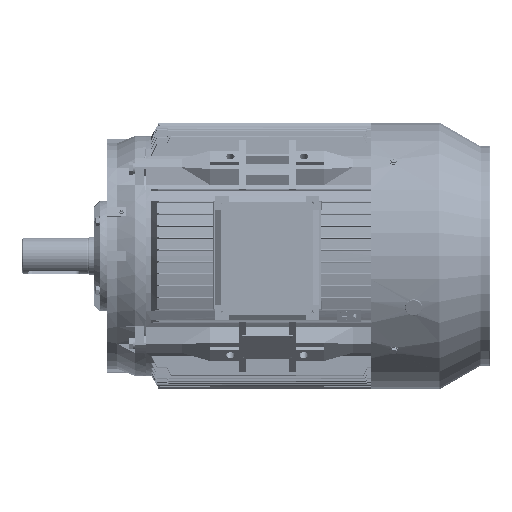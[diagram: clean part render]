
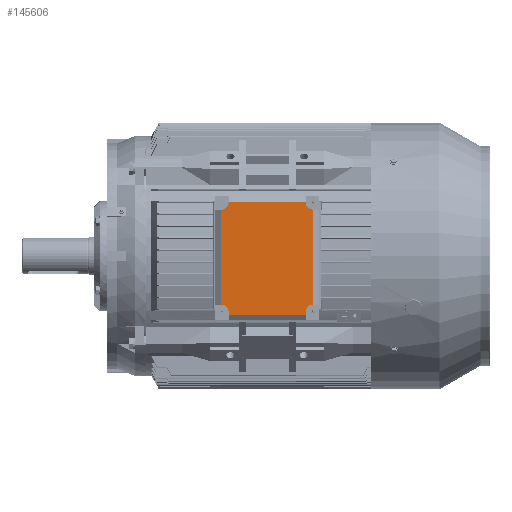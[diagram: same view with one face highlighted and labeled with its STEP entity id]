
A CAD part, top view. The second image highlights one B-rep face of the part: STEP entity #145606.
In plain terms, the highlighted planar face has unit normal (0, 0, 1).
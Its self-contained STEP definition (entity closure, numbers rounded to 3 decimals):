
#145606 = ADVANCED_FACE ( 'NONE', ( #189729 ), #189711, .T. ) ;
#145609 = EDGE_LOOP ( 'NONE', ( #145622, #145659, #145677, #145697, #145716, #145752, #145768, #145796, #145811, #145834, #145863, #145884, #145907, #145923, #145940, #145979 ) ) ;
#145622 = ORIENTED_EDGE ( 'NONE', *, *, #145626, .F. ) ;
#145626 = EDGE_CURVE ( 'NONE', #145641, #145653, #189882, .T. ) ;
#145641 = VERTEX_POINT ( 'NONE', #189827 ) ;
#145653 = VERTEX_POINT ( 'NONE', #189813 ) ;
#145659 = ORIENTED_EDGE ( 'NONE', *, *, #145664, .T. ) ;
#145664 = EDGE_CURVE ( 'NONE', #145641, #145668, #189986, .T. ) ;
#145668 = VERTEX_POINT ( 'NONE', #189975 ) ;
#145677 = ORIENTED_EDGE ( 'NONE', *, *, #145681, .F. ) ;
#145681 = EDGE_CURVE ( 'NONE', #145688, #145668, #189944, .T. ) ;
#145688 = VERTEX_POINT ( 'NONE', #189931 ) ;
#145697 = ORIENTED_EDGE ( 'NONE', *, *, #145708, .F. ) ;
#145708 = EDGE_CURVE ( 'NONE', #145713, #145688, #190087, .T. ) ;
#145713 = VERTEX_POINT ( 'NONE', #190074 ) ;
#145716 = ORIENTED_EDGE ( 'NONE', *, *, #145723, .F. ) ;
#145723 = EDGE_CURVE ( 'NONE', #145733, #145713, #190068, .T. ) ;
#145733 = VERTEX_POINT ( 'NONE', #190046 ) ;
#145752 = ORIENTED_EDGE ( 'NONE', *, *, #145756, .T. ) ;
#145756 = EDGE_CURVE ( 'NONE', #145733, #145761, #190201, .T. ) ;
#145761 = VERTEX_POINT ( 'NONE', #190190 ) ;
#145768 = ORIENTED_EDGE ( 'NONE', *, *, #145784, .F. ) ;
#145784 = EDGE_CURVE ( 'NONE', #145789, #145761, #190151, .T. ) ;
#145789 = VERTEX_POINT ( 'NONE', #190136 ) ;
#145796 = ORIENTED_EDGE ( 'NONE', *, *, #145801, .F. ) ;
#145801 = EDGE_CURVE ( 'NONE', #145803, #145789, #190319, .T. ) ;
#145803 = VERTEX_POINT ( 'NONE', #190307 ) ;
#145811 = ORIENTED_EDGE ( 'NONE', *, *, #145819, .F. ) ;
#145819 = EDGE_CURVE ( 'NONE', #145827, #145803, #190268, .T. ) ;
#145827 = VERTEX_POINT ( 'NONE', #190260 ) ;
#145834 = ORIENTED_EDGE ( 'NONE', *, *, #145836, .T. ) ;
#145836 = EDGE_CURVE ( 'NONE', #145827, #145842, #190421, .T. ) ;
#145842 = VERTEX_POINT ( 'NONE', #190413 ) ;
#145863 = ORIENTED_EDGE ( 'NONE', *, *, #145870, .F. ) ;
#145870 = EDGE_CURVE ( 'NONE', #145879, #145842, #190359, .T. ) ;
#145879 = VERTEX_POINT ( 'NONE', #190328 ) ;
#145884 = ORIENTED_EDGE ( 'NONE', *, *, #145888, .F. ) ;
#145888 = EDGE_CURVE ( 'NONE', #145894, #145879, #190510, .T. ) ;
#145894 = VERTEX_POINT ( 'NONE', #190495 ) ;
#145907 = ORIENTED_EDGE ( 'NONE', *, *, #145910, .F. ) ;
#145910 = EDGE_CURVE ( 'NONE', #145918, #145894, #190468, .T. ) ;
#145918 = VERTEX_POINT ( 'NONE', #190445 ) ;
#145923 = ORIENTED_EDGE ( 'NONE', *, *, #145929, .T. ) ;
#145929 = EDGE_CURVE ( 'NONE', #145918, #145932, #190627, .T. ) ;
#145932 = VERTEX_POINT ( 'NONE', #190619 ) ;
#145940 = ORIENTED_EDGE ( 'NONE', *, *, #145945, .F. ) ;
#145945 = EDGE_CURVE ( 'NONE', #145947, #145932, #190595, .T. ) ;
#145947 = VERTEX_POINT ( 'NONE', #190587 ) ;
#145979 = ORIENTED_EDGE ( 'NONE', *, *, #145984, .F. ) ;
#145984 = EDGE_CURVE ( 'NONE', #145653, #145947, #190529, .T. ) ;
#189711 = PLANE ( 'NONE',  #189718 ) ;
#189718 = AXIS2_PLACEMENT_3D ( 'NONE', #189910, #189908, #189906 ) ;
#189729 = FACE_OUTER_BOUND ( 'NONE', #145609, .T. ) ;
#189813 = CARTESIAN_POINT ( 'NONE',  ( 97., 96., 16. ) ) ;
#189827 = CARTESIAN_POINT ( 'NONE',  ( 97., 97., 16. ) ) ;
#189878 = DIRECTION ( 'NONE',  ( 0., -1., 0. ) ) ;
#189880 = VECTOR ( 'NONE', #189878, 1000. ) ;
#189881 = CARTESIAN_POINT ( 'NONE',  ( 97., 109., 16. ) ) ;
#189882 = LINE ( 'NONE', #189881, #189880 ) ;
#189906 = DIRECTION ( 'NONE',  ( 1., 0., 0. ) ) ;
#189908 = DIRECTION ( 'NONE',  ( 0., 0., 1. ) ) ;
#189910 = CARTESIAN_POINT ( 'NONE',  ( -130., -109., 16. ) ) ;
#189931 = CARTESIAN_POINT ( 'NONE',  ( -102., 96., 16. ) ) ;
#189935 = DIRECTION ( 'NONE',  ( 0., 1., 0. ) ) ;
#189936 = VECTOR ( 'NONE', #189935, 1000. ) ;
#189940 = CARTESIAN_POINT ( 'NONE',  ( -102., 109., 16. ) ) ;
#189944 = LINE ( 'NONE', #189940, #189936 ) ;
#189975 = CARTESIAN_POINT ( 'NONE',  ( -102., 97., 16. ) ) ;
#189979 = DIRECTION ( 'NONE',  ( -1., 0., 0. ) ) ;
#189982 = VECTOR ( 'NONE', #189979, 1000. ) ;
#189985 = CARTESIAN_POINT ( 'NONE',  ( -102., 97., 16. ) ) ;
#189986 = LINE ( 'NONE', #189985, #189982 ) ;
#190046 = CARTESIAN_POINT ( 'NONE',  ( -118., 81., 16. ) ) ;
#190060 = DIRECTION ( 'NONE',  ( 1., 0., 0. ) ) ;
#190063 = VECTOR ( 'NONE', #190060, 1000. ) ;
#190065 = CARTESIAN_POINT ( 'NONE',  ( -130., 81., 16. ) ) ;
#190068 = LINE ( 'NONE', #190065, #190063 ) ;
#190074 = CARTESIAN_POINT ( 'NONE',  ( -117., 81., 16. ) ) ;
#190082 = DIRECTION ( 'NONE',  ( -1., 0., 0. ) ) ;
#190084 = DIRECTION ( 'NONE',  ( 0., 0., 1. ) ) ;
#190086 = AXIS2_PLACEMENT_3D ( 'NONE', #190102, #190084, #190082 ) ;
#190087 = CIRCLE ( 'NONE', #190086, 15. ) ;
#190102 = CARTESIAN_POINT ( 'NONE',  ( -117., 96., 16. ) ) ;
#190130 = CARTESIAN_POINT ( 'NONE',  ( -117., -96., 16. ) ) ;
#190136 = CARTESIAN_POINT ( 'NONE',  ( -117., -81., 16. ) ) ;
#190144 = DIRECTION ( 'NONE',  ( -1., 0., 0. ) ) ;
#190146 = VECTOR ( 'NONE', #190144, 1000. ) ;
#190149 = CARTESIAN_POINT ( 'NONE',  ( -130., -81., 16. ) ) ;
#190151 = LINE ( 'NONE', #190149, #190146 ) ;
#190190 = CARTESIAN_POINT ( 'NONE',  ( -118., -81., 16. ) ) ;
#190196 = DIRECTION ( 'NONE',  ( 0., -1., 0. ) ) ;
#190197 = VECTOR ( 'NONE', #190196, 1000. ) ;
#190199 = CARTESIAN_POINT ( 'NONE',  ( -118., -81., 16. ) ) ;
#190201 = LINE ( 'NONE', #190199, #190197 ) ;
#190260 = CARTESIAN_POINT ( 'NONE',  ( -102., -97., 16. ) ) ;
#190262 = DIRECTION ( 'NONE',  ( 0., 1., 0. ) ) ;
#190263 = VECTOR ( 'NONE', #190262, 1000. ) ;
#190266 = CARTESIAN_POINT ( 'NONE',  ( -102., -109., 16. ) ) ;
#190268 = LINE ( 'NONE', #190266, #190263 ) ;
#190307 = CARTESIAN_POINT ( 'NONE',  ( -102., -96., 16. ) ) ;
#190314 = DIRECTION ( 'NONE',  ( -1., 0., 0. ) ) ;
#190315 = DIRECTION ( 'NONE',  ( 0., 0., 1. ) ) ;
#190317 = AXIS2_PLACEMENT_3D ( 'NONE', #190130, #190315, #190314 ) ;
#190319 = CIRCLE ( 'NONE', #190317, 15. ) ;
#190328 = CARTESIAN_POINT ( 'NONE',  ( 97., -96., 16. ) ) ;
#190354 = DIRECTION ( 'NONE',  ( 0., -1., 0. ) ) ;
#190356 = VECTOR ( 'NONE', #190354, 1000. ) ;
#190358 = CARTESIAN_POINT ( 'NONE',  ( 97., -109., 16. ) ) ;
#190359 = LINE ( 'NONE', #190358, #190356 ) ;
#190413 = CARTESIAN_POINT ( 'NONE',  ( 97., -97., 16. ) ) ;
#190417 = DIRECTION ( 'NONE',  ( 1., 0., 0. ) ) ;
#190418 = VECTOR ( 'NONE', #190417, 1000. ) ;
#190419 = CARTESIAN_POINT ( 'NONE',  ( 97., -97., 16. ) ) ;
#190421 = LINE ( 'NONE', #190419, #190418 ) ;
#190445 = CARTESIAN_POINT ( 'NONE',  ( 118., -81., 16. ) ) ;
#190462 = DIRECTION ( 'NONE',  ( -1., 0., 0. ) ) ;
#190464 = VECTOR ( 'NONE', #190462, 1000. ) ;
#190466 = CARTESIAN_POINT ( 'NONE',  ( 130., -81., 16. ) ) ;
#190468 = LINE ( 'NONE', #190466, #190464 ) ;
#190495 = CARTESIAN_POINT ( 'NONE',  ( 112., -81., 16. ) ) ;
#190503 = DIRECTION ( 'NONE',  ( -1., 0., 0. ) ) ;
#190505 = DIRECTION ( 'NONE',  ( 0., 0., 1. ) ) ;
#190507 = CARTESIAN_POINT ( 'NONE',  ( 112., -96., 16. ) ) ;
#190509 = AXIS2_PLACEMENT_3D ( 'NONE', #190507, #190505, #190503 ) ;
#190510 = CIRCLE ( 'NONE', #190509, 15. ) ;
#190529 = CIRCLE ( 'NONE', #190731, 15. ) ;
#190587 = CARTESIAN_POINT ( 'NONE',  ( 112., 81., 16. ) ) ;
#190590 = DIRECTION ( 'NONE',  ( 1., 0., 0. ) ) ;
#190591 = VECTOR ( 'NONE', #190590, 1000. ) ;
#190593 = CARTESIAN_POINT ( 'NONE',  ( 130., 81., 16. ) ) ;
#190595 = LINE ( 'NONE', #190593, #190591 ) ;
#190619 = CARTESIAN_POINT ( 'NONE',  ( 118., 81., 16. ) ) ;
#190621 = DIRECTION ( 'NONE',  ( 0., 1., 0. ) ) ;
#190622 = VECTOR ( 'NONE', #190621, 1000. ) ;
#190626 = CARTESIAN_POINT ( 'NONE',  ( 118., 81., 16. ) ) ;
#190627 = LINE ( 'NONE', #190626, #190622 ) ;
#190724 = DIRECTION ( 'NONE',  ( -1., 0., 0. ) ) ;
#190727 = DIRECTION ( 'NONE',  ( 0., 0., 1. ) ) ;
#190729 = CARTESIAN_POINT ( 'NONE',  ( 112., 96., 16. ) ) ;
#190731 = AXIS2_PLACEMENT_3D ( 'NONE', #190729, #190727, #190724 ) ;
